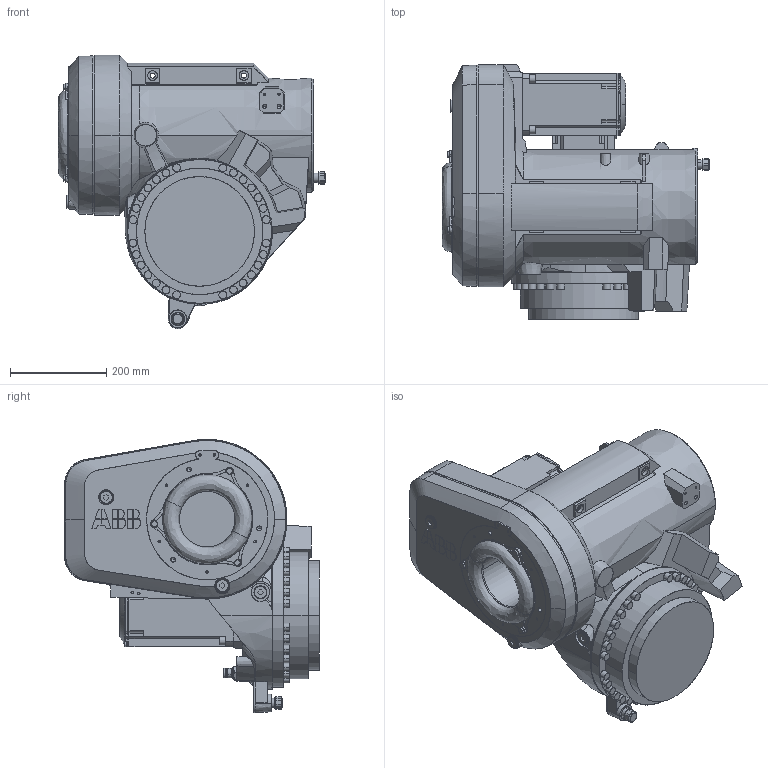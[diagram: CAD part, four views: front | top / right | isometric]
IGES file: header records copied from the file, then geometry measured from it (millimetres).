
Start section: SolidWorks IGES file using analytic representation for surfaces
Global section: file name: C:\Users\SEALDUN\OneDrive - ABB\Documents\R&D Robotics\Work Items\WI 632927 light weight hole removal\IGES\IRB5720-LID-MH_90kg-300_OC_03_IGES_J\IRB5720-LID_90kg-300_OmniCore_rev01_LINK03_CAD.igs; native system: SolidWorks 2024; preprocessor: SolidWorks 2024; author: SEALDUN; date: 250708.123140; units: millimetre
Bounding box: 555.99 x 529 x 568.25 mm (x, y, z)
Surface area: 1470253.2 mm2 (no closed solid volume)
Topology: 0 solids, 0 shells, 1124 faces, 16752 edges, 16712 vertices
Faces by surface type: bspline 618, revolution 506
